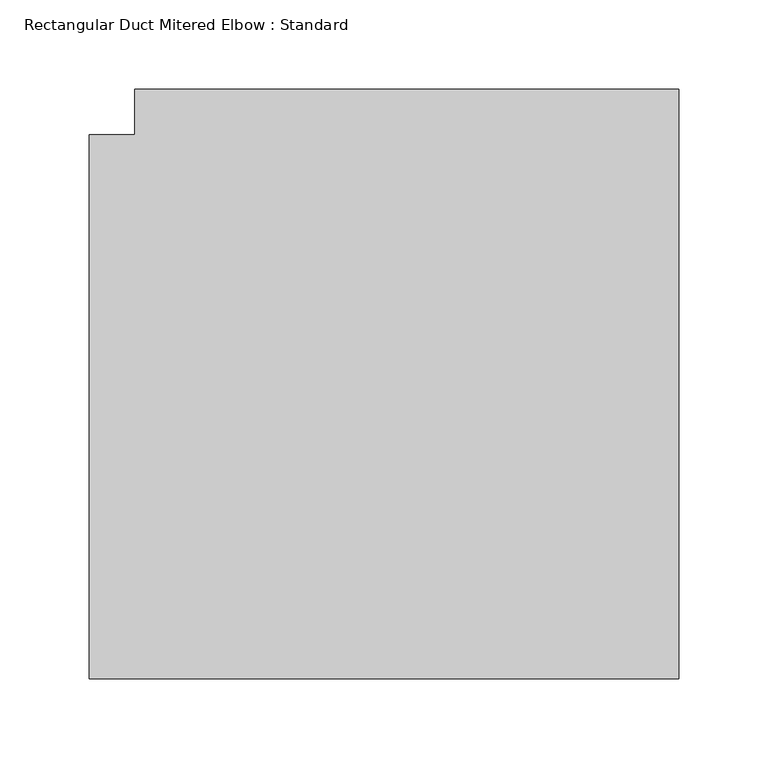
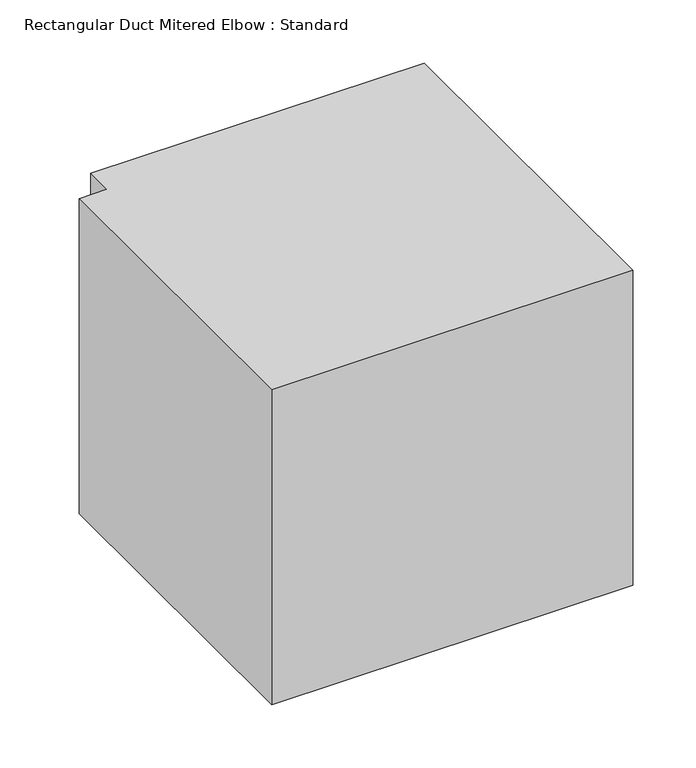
"""IFC4 building model written with IfcOpenShell, lengths in millimetres: duct fitting geometry, Rectangular Duct Mitered Elbow : Standard."""

from ifc_helpers import new_model, si_unit, frame, origin, place, context, project, spatial, polyline, outline, extrude, source, transform, mapped, element, save


def rectangular_duct_mitered_elbow_standard_4ee72a37(model_context):
    return source(origin(), model_context, "Body", "SweptSolid", [
        extrude(outline(polyline([(-177.8, -152.4), (-177.8, 152.4), (-152.4, 152.4), (-152.4, 177.8), (152.4, 177.8), (152.4, -152.4), (-177.8, -152.4)])), frame((0.0, 0.0, -152.4), z_axis=(0.0, 0.0, 1.0), x_axis=(1.0, 0.0, 0.0)), (0.0, 0.0, 1.0), 304.8),
        extrude(outline(polyline([(-177.8, -152.4), (-177.8, 152.4), (-152.4, 152.4), (-152.4, 177.8), (152.4, 177.8), (152.4, -152.4), (-177.8, -152.4)])), frame((0.0, 0.0, -152.4), z_axis=(0.0, 0.0, 1.0), x_axis=(1.0, 0.0, 0.0)), (0.0, 0.0, 1.0), 304.8),
        extrude(outline(polyline([(-177.8, -152.4), (-177.8, 152.4), (-152.4, 152.4), (-152.4, 177.8), (152.4, 177.8), (152.4, -152.4), (-177.8, -152.4)])), frame((0.0, 0.0, -152.4), z_axis=(0.0, 0.0, 1.0), x_axis=(1.0, 0.0, 0.0)), (0.0, 0.0, 1.0), 304.8),
    ])


if __name__ == "__main__":
    model = new_model("IFC4")
    model_context = context("Model", 3, world=origin())
    ifc_project = project(units=[si_unit("LENGTHUNIT", "METRE", prefix="MILLI")], contexts=[model_context])
    site = spatial("IfcSite", under=ifc_project)
    building = spatial("IfcBuilding", under=site)
    placement = place(None, origin())
    rectangular_duct_mitered_elbow_standard_shape = rectangular_duct_mitered_elbow_standard_4ee72a37(model_context)
    element("IfcDuctFitting", 1, ObjectType="Rectangular Duct Mitered Elbow : Standard", at=placement, inside=building, context=model_context, shape_type="MappedRepresentation", body=[
        mapped(rectangular_duct_mitered_elbow_standard_shape, transform((0.0, 0.0, 0.0), x_axis=(1.0, 0.0, 0.0), y_axis=(0.0, 1.0, 0.0), z_axis=(0.0, 0.0, 1.0))),
    ])
    save(model, "model.ifc")
